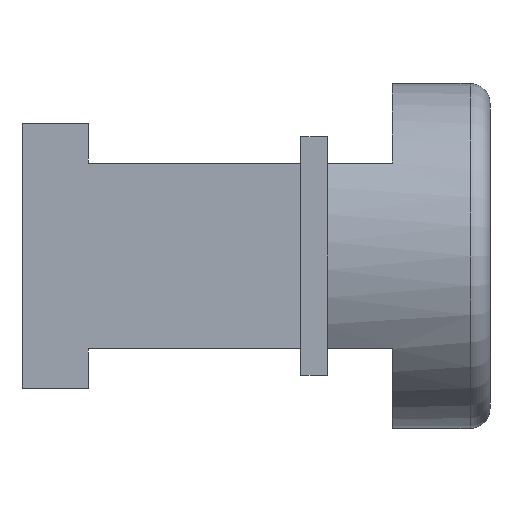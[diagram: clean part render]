
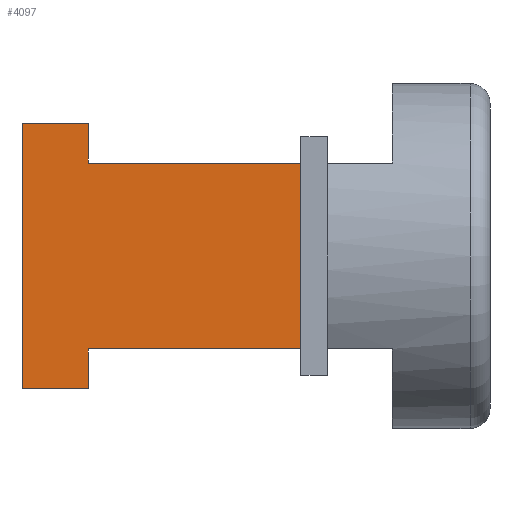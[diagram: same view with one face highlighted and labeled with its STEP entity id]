
A CAD part, front view. The second image highlights one B-rep face of the part: STEP entity #4097.
In plain terms, the highlighted planar face has unit normal (0, -1, 0).
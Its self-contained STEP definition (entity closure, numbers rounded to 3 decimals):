
#3301 = PLANE('',#3302);
#3302 = AXIS2_PLACEMENT_3D('',#3303,#3304,#3305);
#3303 = CARTESIAN_POINT('',(70.7,95.2,7.9));
#3304 = DIRECTION('',(1.,0.,0.));
#3305 = DIRECTION('',(0.,0.,1.));
#3877 = EDGE_CURVE('',#3878,#3880,#3882,.T.);
#3878 = VERTEX_POINT('',#3879);
#3879 = CARTESIAN_POINT('',(70.7,95.7,11.1));
#3880 = VERTEX_POINT('',#3881);
#3881 = CARTESIAN_POINT('',(70.7,95.7,8.3));
#3882 = SURFACE_CURVE('',#3883,(#3887,#3893),.PCURVE_S1.);
#3883 = LINE('',#3884,#3885);
#3884 = CARTESIAN_POINT('',(70.7,95.7,8.1));
#3885 = VECTOR('',#3886,1.);
#3886 = DIRECTION('',(0.,0.,-1.));
#3887 = PCURVE('',#3301,#3888);
#3888 = DEFINITIONAL_REPRESENTATION('',(#3889),#3892);
#3889 = B_SPLINE_CURVE_WITH_KNOTS('',1,(#3890,#3891),.UNSPECIFIED.,.F.,
  .F.,(2,2),(-3.,-0.2),.PIECEWISE_BEZIER_KNOTS.);
#3890 = CARTESIAN_POINT('',(3.2,-0.5));
#3891 = CARTESIAN_POINT('',(0.4,-0.5));
#3892 = ( GEOMETRIC_REPRESENTATION_CONTEXT(2) 
PARAMETRIC_REPRESENTATION_CONTEXT() REPRESENTATION_CONTEXT('2D SPACE',''
  ) );
#3893 = PCURVE('',#3894,#3899);
#3894 = PLANE('',#3895);
#3895 = AXIS2_PLACEMENT_3D('',#3896,#3897,#3898);
#3896 = CARTESIAN_POINT('',(68.366,95.7,9.7));
#3897 = DIRECTION('',(-0.,-1.,-0.));
#3898 = DIRECTION('',(0.,0.,-1.));
#3899 = DEFINITIONAL_REPRESENTATION('',(#3900),#3904);
#3900 = LINE('',#3901,#3902);
#3901 = CARTESIAN_POINT('',(1.6,2.334));
#3902 = VECTOR('',#3903,1.);
#3903 = DIRECTION('',(1.,0.));
#3904 = ( GEOMETRIC_REPRESENTATION_CONTEXT(2) 
PARAMETRIC_REPRESENTATION_CONTEXT() REPRESENTATION_CONTEXT('2D SPACE',''
  ) );
#3921 = PLANE('',#3922);
#3922 = AXIS2_PLACEMENT_3D('',#3923,#3924,#3925);
#3923 = CARTESIAN_POINT('',(66.5,95.7,11.1));
#3924 = DIRECTION('',(0.,0.,1.));
#3925 = DIRECTION('',(1.,0.,0.));
#3972 = PLANE('',#3973);
#3973 = AXIS2_PLACEMENT_3D('',#3974,#3975,#3976);
#3974 = CARTESIAN_POINT('',(66.5,95.7,8.3));
#3975 = DIRECTION('',(0.,0.,1.));
#3976 = DIRECTION('',(1.,0.,0.));
#4097 = ADVANCED_FACE('',(#4098),#3894,.T.);
#4098 = FACE_BOUND('',#4099,.T.);
#4099 = EDGE_LOOP('',(#4100,#4123,#4124,#4147,#4175,#4203,#4231,#4259));
#4100 = ORIENTED_EDGE('',*,*,#4101,.T.);
#4101 = EDGE_CURVE('',#4102,#3880,#4104,.T.);
#4102 = VERTEX_POINT('',#4103);
#4103 = CARTESIAN_POINT('',(67.5,95.7,8.3));
#4104 = SURFACE_CURVE('',#4105,(#4109,#4116),.PCURVE_S1.);
#4105 = LINE('',#4106,#4107);
#4106 = CARTESIAN_POINT('',(66.5,95.7,8.3));
#4107 = VECTOR('',#4108,1.);
#4108 = DIRECTION('',(1.,0.,0.));
#4109 = PCURVE('',#3894,#4110);
#4110 = DEFINITIONAL_REPRESENTATION('',(#4111),#4115);
#4111 = LINE('',#4112,#4113);
#4112 = CARTESIAN_POINT('',(1.4,-1.866));
#4113 = VECTOR('',#4114,1.);
#4114 = DIRECTION('',(0.,1.));
#4115 = ( GEOMETRIC_REPRESENTATION_CONTEXT(2) 
PARAMETRIC_REPRESENTATION_CONTEXT() REPRESENTATION_CONTEXT('2D SPACE',''
  ) );
#4116 = PCURVE('',#3972,#4117);
#4117 = DEFINITIONAL_REPRESENTATION('',(#4118),#4122);
#4118 = LINE('',#4119,#4120);
#4119 = CARTESIAN_POINT('',(0.,0.));
#4120 = VECTOR('',#4121,1.);
#4121 = DIRECTION('',(1.,0.));
#4122 = ( GEOMETRIC_REPRESENTATION_CONTEXT(2) 
PARAMETRIC_REPRESENTATION_CONTEXT() REPRESENTATION_CONTEXT('2D SPACE',''
  ) );
#4123 = ORIENTED_EDGE('',*,*,#3877,.F.);
#4124 = ORIENTED_EDGE('',*,*,#4125,.F.);
#4125 = EDGE_CURVE('',#4126,#3878,#4128,.T.);
#4126 = VERTEX_POINT('',#4127);
#4127 = CARTESIAN_POINT('',(67.5,95.7,11.1));
#4128 = SURFACE_CURVE('',#4129,(#4133,#4140),.PCURVE_S1.);
#4129 = LINE('',#4130,#4131);
#4130 = CARTESIAN_POINT('',(66.5,95.7,11.1));
#4131 = VECTOR('',#4132,1.);
#4132 = DIRECTION('',(1.,0.,0.));
#4133 = PCURVE('',#3894,#4134);
#4134 = DEFINITIONAL_REPRESENTATION('',(#4135),#4139);
#4135 = LINE('',#4136,#4137);
#4136 = CARTESIAN_POINT('',(-1.4,-1.866));
#4137 = VECTOR('',#4138,1.);
#4138 = DIRECTION('',(0.,1.));
#4139 = ( GEOMETRIC_REPRESENTATION_CONTEXT(2) 
PARAMETRIC_REPRESENTATION_CONTEXT() REPRESENTATION_CONTEXT('2D SPACE',''
  ) );
#4140 = PCURVE('',#3921,#4141);
#4141 = DEFINITIONAL_REPRESENTATION('',(#4142),#4146);
#4142 = LINE('',#4143,#4144);
#4143 = CARTESIAN_POINT('',(0.,0.));
#4144 = VECTOR('',#4145,1.);
#4145 = DIRECTION('',(1.,0.));
#4146 = ( GEOMETRIC_REPRESENTATION_CONTEXT(2) 
PARAMETRIC_REPRESENTATION_CONTEXT() REPRESENTATION_CONTEXT('2D SPACE',''
  ) );
#4147 = ORIENTED_EDGE('',*,*,#4148,.T.);
#4148 = EDGE_CURVE('',#4126,#4149,#4151,.T.);
#4149 = VERTEX_POINT('',#4150);
#4150 = CARTESIAN_POINT('',(67.5,95.7,11.7));
#4151 = SURFACE_CURVE('',#4152,(#4156,#4163),.PCURVE_S1.);
#4152 = LINE('',#4153,#4154);
#4153 = CARTESIAN_POINT('',(67.5,95.7,7.7));
#4154 = VECTOR('',#4155,1.);
#4155 = DIRECTION('',(0.,0.,1.));
#4156 = PCURVE('',#3894,#4157);
#4157 = DEFINITIONAL_REPRESENTATION('',(#4158),#4162);
#4158 = LINE('',#4159,#4160);
#4159 = CARTESIAN_POINT('',(2.,-0.866));
#4160 = VECTOR('',#4161,1.);
#4161 = DIRECTION('',(-1.,0.));
#4162 = ( GEOMETRIC_REPRESENTATION_CONTEXT(2) 
PARAMETRIC_REPRESENTATION_CONTEXT() REPRESENTATION_CONTEXT('2D SPACE',''
  ) );
#4163 = PCURVE('',#4164,#4169);
#4164 = PLANE('',#4165);
#4165 = AXIS2_PLACEMENT_3D('',#4166,#4167,#4168);
#4166 = CARTESIAN_POINT('',(67.5,95.7,7.7));
#4167 = DIRECTION('',(1.,0.,0.));
#4168 = DIRECTION('',(0.,0.,1.));
#4169 = DEFINITIONAL_REPRESENTATION('',(#4170),#4174);
#4170 = LINE('',#4171,#4172);
#4171 = CARTESIAN_POINT('',(0.,0.));
#4172 = VECTOR('',#4173,1.);
#4173 = DIRECTION('',(1.,0.));
#4174 = ( GEOMETRIC_REPRESENTATION_CONTEXT(2) 
PARAMETRIC_REPRESENTATION_CONTEXT() REPRESENTATION_CONTEXT('2D SPACE',''
  ) );
#4175 = ORIENTED_EDGE('',*,*,#4176,.F.);
#4176 = EDGE_CURVE('',#4177,#4149,#4179,.T.);
#4177 = VERTEX_POINT('',#4178);
#4178 = CARTESIAN_POINT('',(66.5,95.7,11.7));
#4179 = SURFACE_CURVE('',#4180,(#4184,#4191),.PCURVE_S1.);
#4180 = LINE('',#4181,#4182);
#4181 = CARTESIAN_POINT('',(66.5,95.7,11.7));
#4182 = VECTOR('',#4183,1.);
#4183 = DIRECTION('',(1.,0.,0.));
#4184 = PCURVE('',#3894,#4185);
#4185 = DEFINITIONAL_REPRESENTATION('',(#4186),#4190);
#4186 = LINE('',#4187,#4188);
#4187 = CARTESIAN_POINT('',(-2.,-1.866));
#4188 = VECTOR('',#4189,1.);
#4189 = DIRECTION('',(0.,1.));
#4190 = ( GEOMETRIC_REPRESENTATION_CONTEXT(2) 
PARAMETRIC_REPRESENTATION_CONTEXT() REPRESENTATION_CONTEXT('2D SPACE',''
  ) );
#4191 = PCURVE('',#4192,#4197);
#4192 = PLANE('',#4193);
#4193 = AXIS2_PLACEMENT_3D('',#4194,#4195,#4196);
#4194 = CARTESIAN_POINT('',(66.5,95.7,11.7));
#4195 = DIRECTION('',(0.,0.,1.));
#4196 = DIRECTION('',(1.,0.,0.));
#4197 = DEFINITIONAL_REPRESENTATION('',(#4198),#4202);
#4198 = LINE('',#4199,#4200);
#4199 = CARTESIAN_POINT('',(0.,0.));
#4200 = VECTOR('',#4201,1.);
#4201 = DIRECTION('',(1.,0.));
#4202 = ( GEOMETRIC_REPRESENTATION_CONTEXT(2) 
PARAMETRIC_REPRESENTATION_CONTEXT() REPRESENTATION_CONTEXT('2D SPACE',''
  ) );
#4203 = ORIENTED_EDGE('',*,*,#4204,.F.);
#4204 = EDGE_CURVE('',#4205,#4177,#4207,.T.);
#4205 = VERTEX_POINT('',#4206);
#4206 = CARTESIAN_POINT('',(66.5,95.7,7.7));
#4207 = SURFACE_CURVE('',#4208,(#4212,#4219),.PCURVE_S1.);
#4208 = LINE('',#4209,#4210);
#4209 = CARTESIAN_POINT('',(66.5,95.7,7.7));
#4210 = VECTOR('',#4211,1.);
#4211 = DIRECTION('',(0.,0.,1.));
#4212 = PCURVE('',#3894,#4213);
#4213 = DEFINITIONAL_REPRESENTATION('',(#4214),#4218);
#4214 = LINE('',#4215,#4216);
#4215 = CARTESIAN_POINT('',(2.,-1.866));
#4216 = VECTOR('',#4217,1.);
#4217 = DIRECTION('',(-1.,0.));
#4218 = ( GEOMETRIC_REPRESENTATION_CONTEXT(2) 
PARAMETRIC_REPRESENTATION_CONTEXT() REPRESENTATION_CONTEXT('2D SPACE',''
  ) );
#4219 = PCURVE('',#4220,#4225);
#4220 = PLANE('',#4221);
#4221 = AXIS2_PLACEMENT_3D('',#4222,#4223,#4224);
#4222 = CARTESIAN_POINT('',(66.5,96.5,9.7));
#4223 = DIRECTION('',(-1.,-0.,-0.));
#4224 = DIRECTION('',(0.,0.,-1.));
#4225 = DEFINITIONAL_REPRESENTATION('',(#4226),#4230);
#4226 = LINE('',#4227,#4228);
#4227 = CARTESIAN_POINT('',(2.,0.8));
#4228 = VECTOR('',#4229,1.);
#4229 = DIRECTION('',(-1.,0.));
#4230 = ( GEOMETRIC_REPRESENTATION_CONTEXT(2) 
PARAMETRIC_REPRESENTATION_CONTEXT() REPRESENTATION_CONTEXT('2D SPACE',''
  ) );
#4231 = ORIENTED_EDGE('',*,*,#4232,.T.);
#4232 = EDGE_CURVE('',#4205,#4233,#4235,.T.);
#4233 = VERTEX_POINT('',#4234);
#4234 = CARTESIAN_POINT('',(67.5,95.7,7.7));
#4235 = SURFACE_CURVE('',#4236,(#4240,#4247),.PCURVE_S1.);
#4236 = LINE('',#4237,#4238);
#4237 = CARTESIAN_POINT('',(66.5,95.7,7.7));
#4238 = VECTOR('',#4239,1.);
#4239 = DIRECTION('',(1.,0.,0.));
#4240 = PCURVE('',#3894,#4241);
#4241 = DEFINITIONAL_REPRESENTATION('',(#4242),#4246);
#4242 = LINE('',#4243,#4244);
#4243 = CARTESIAN_POINT('',(2.,-1.866));
#4244 = VECTOR('',#4245,1.);
#4245 = DIRECTION('',(0.,1.));
#4246 = ( GEOMETRIC_REPRESENTATION_CONTEXT(2) 
PARAMETRIC_REPRESENTATION_CONTEXT() REPRESENTATION_CONTEXT('2D SPACE',''
  ) );
#4247 = PCURVE('',#4248,#4253);
#4248 = PLANE('',#4249);
#4249 = AXIS2_PLACEMENT_3D('',#4250,#4251,#4252);
#4250 = CARTESIAN_POINT('',(66.5,95.7,7.7));
#4251 = DIRECTION('',(0.,0.,1.));
#4252 = DIRECTION('',(1.,0.,0.));
#4253 = DEFINITIONAL_REPRESENTATION('',(#4254),#4258);
#4254 = LINE('',#4255,#4256);
#4255 = CARTESIAN_POINT('',(0.,0.));
#4256 = VECTOR('',#4257,1.);
#4257 = DIRECTION('',(1.,0.));
#4258 = ( GEOMETRIC_REPRESENTATION_CONTEXT(2) 
PARAMETRIC_REPRESENTATION_CONTEXT() REPRESENTATION_CONTEXT('2D SPACE',''
  ) );
#4259 = ORIENTED_EDGE('',*,*,#4260,.T.);
#4260 = EDGE_CURVE('',#4233,#4102,#4261,.T.);
#4261 = SURFACE_CURVE('',#4262,(#4266,#4273),.PCURVE_S1.);
#4262 = LINE('',#4263,#4264);
#4263 = CARTESIAN_POINT('',(67.5,95.7,7.7));
#4264 = VECTOR('',#4265,1.);
#4265 = DIRECTION('',(0.,0.,1.));
#4266 = PCURVE('',#3894,#4267);
#4267 = DEFINITIONAL_REPRESENTATION('',(#4268),#4272);
#4268 = LINE('',#4269,#4270);
#4269 = CARTESIAN_POINT('',(2.,-0.866));
#4270 = VECTOR('',#4271,1.);
#4271 = DIRECTION('',(-1.,0.));
#4272 = ( GEOMETRIC_REPRESENTATION_CONTEXT(2) 
PARAMETRIC_REPRESENTATION_CONTEXT() REPRESENTATION_CONTEXT('2D SPACE',''
  ) );
#4273 = PCURVE('',#4274,#4279);
#4274 = PLANE('',#4275);
#4275 = AXIS2_PLACEMENT_3D('',#4276,#4277,#4278);
#4276 = CARTESIAN_POINT('',(67.5,95.7,7.7));
#4277 = DIRECTION('',(1.,0.,0.));
#4278 = DIRECTION('',(0.,0.,1.));
#4279 = DEFINITIONAL_REPRESENTATION('',(#4280),#4284);
#4280 = LINE('',#4281,#4282);
#4281 = CARTESIAN_POINT('',(0.,0.));
#4282 = VECTOR('',#4283,1.);
#4283 = DIRECTION('',(1.,0.));
#4284 = ( GEOMETRIC_REPRESENTATION_CONTEXT(2) 
PARAMETRIC_REPRESENTATION_CONTEXT() REPRESENTATION_CONTEXT('2D SPACE',''
  ) );
